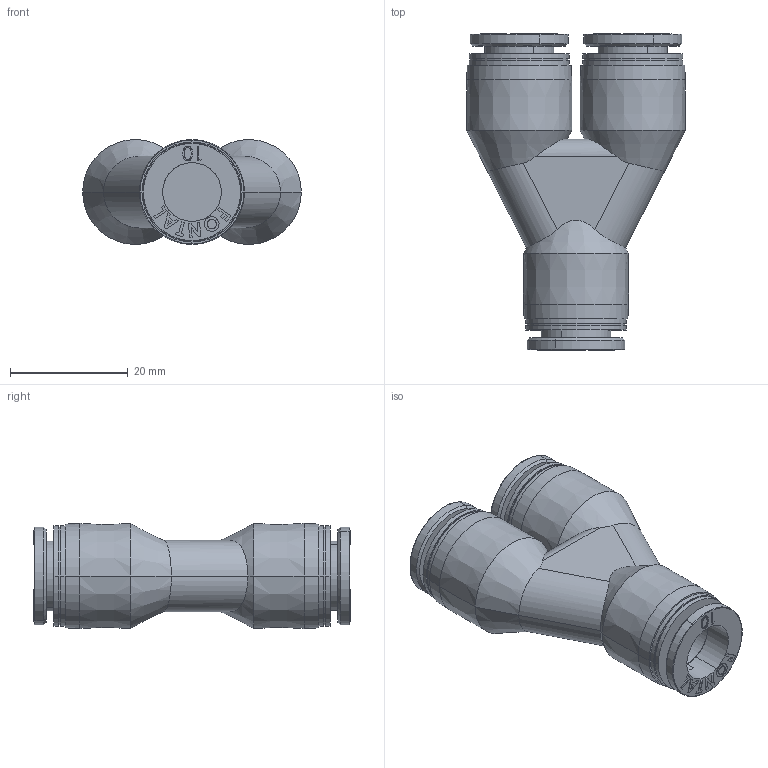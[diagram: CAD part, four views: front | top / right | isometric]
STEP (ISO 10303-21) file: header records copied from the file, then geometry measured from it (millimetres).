
FILE_DESCRIPTION (( 'STEP AP203' ), '1' );
FILE_NAME ('FPY10.STEP', '2016-01-14T21:09:31', ( '' ), ( '' ), 'SwSTEP 2.0', 'SolidWorks 2014', '' );
FILE_SCHEMA (( 'CONFIG_CONTROL_DESIGN' ));
Length unit declared in the file: millimetre
Products named in the file (3): FPY10-A; FPC10-02-A; FPY10
Assembly tree (4 placements, depth 2):
  FPY10
    FPY10-A
    FPC10-02-A  x3
Bounding box: 37.15 x 53.8 x 17.85 mm (x, y, z)
Volume: 12999.8 mm3; surface area: 8109.9 mm2
Topology: 4 solids, 4 shells, 362 faces, 877 edges, 574 vertices
Faces by surface type: plane 216, cylinder 56, bspline 54, cone 24, torus 12
Entity records: 6775 total; most frequent: CARTESIAN_POINT 2531, ORIENTED_EDGE 806, DIRECTION 770, EDGE_CURVE 403, AXIS2_PLACEMENT_3D 265, VERTEX_POINT 262, LINE 240, VECTOR 240
